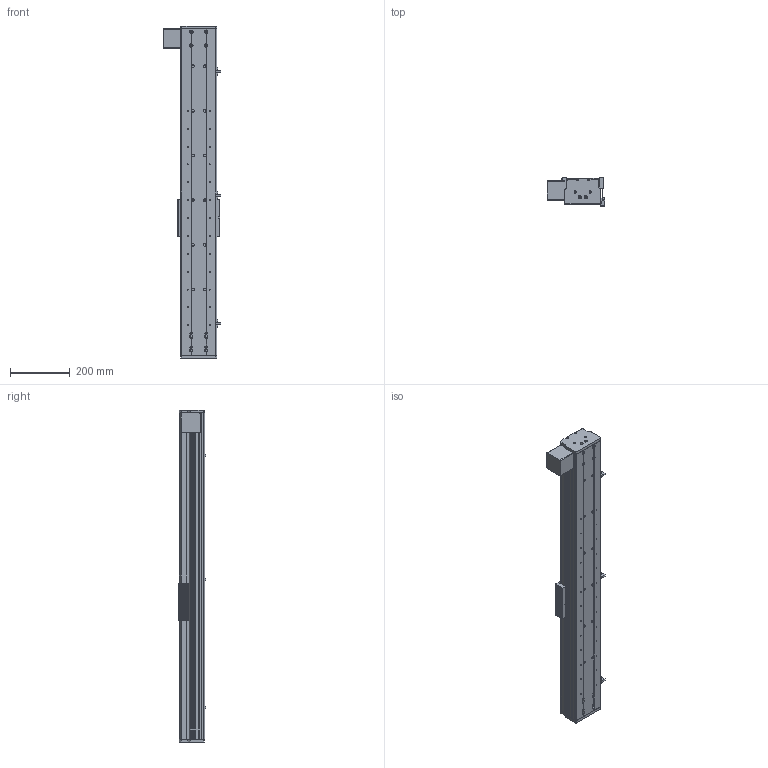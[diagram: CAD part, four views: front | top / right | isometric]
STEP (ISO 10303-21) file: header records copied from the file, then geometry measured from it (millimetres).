
FILE_DESCRIPTION (( 'STEP AP214' ), '1' );
FILE_NAME ('CF120B-D-800-FW.STEP', '2020-01-15T07:28:52', ( '微软用户' ), ( '微软中国' ), 'SwSTEP 2.0', 'SolidWorks 2016', '' );
FILE_SCHEMA (( 'AUTOMOTIVE_DESIGN' ));
Length unit declared in the file: millimetre
Products named in the file (14): 嫖萇羲壽; 75-86-95癹弇羲壽覜茼え; 6060-3232源臏奪-植雄釱; 6060-3232源臏奪-萇儂釱; 6060-3232源臏奪-翋雄釱; CF120B耜啣萇儂傷; CF120B耜啣; CF120B裔啣-800; CF120B賑雄啣; CF120-B賑雄輸; EGR15絳寢-800; EGH-15-CABZnew; CF120B臏倰第-800; CF120B-D-800-FW
Assembly tree (19 placements, depth 2):
  CF120B-D-800-FW
    CF120B臏倰第-800
    EGH-15-CABZnew  x4
    EGR15絳寢-800  x2
    CF120-B賑雄輸
    CF120B賑雄啣
    CF120B裔啣-800
    CF120B耜啣
    CF120B耜啣萇儂傷
    6060-3232源臏奪-翋雄釱
    6060-3232源臏奪-萇儂釱
    6060-3232源臏奪-植雄釱
    75-86-95癹弇羲壽覜茼え
    嫖萇羲壽  x3
Bounding box: 193.1 x 93.85 x 1115 mm (x, y, z)
Volume: 4545715.9 mm3; surface area: 1614516.4 mm2
Topology: 15 solids, 67 shells, 7391 faces, 27962 edges, 19240 vertices
Faces by surface type: plane 3628, bspline 2348, cylinder 1063, cone 128, torus 128, sphere 96
Entity records: 133882 total; most frequent: CARTESIAN_POINT 42526, ORIENTED_EDGE 15920, DIRECTION 12719, EDGE_CURVE 9084, VERTEX_POINT 6213, LINE 5319, VECTOR 5319, AXIS2_PLACEMENT_3D 3700
